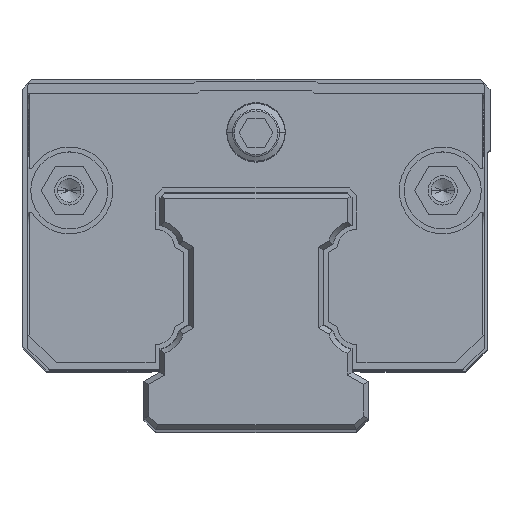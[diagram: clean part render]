
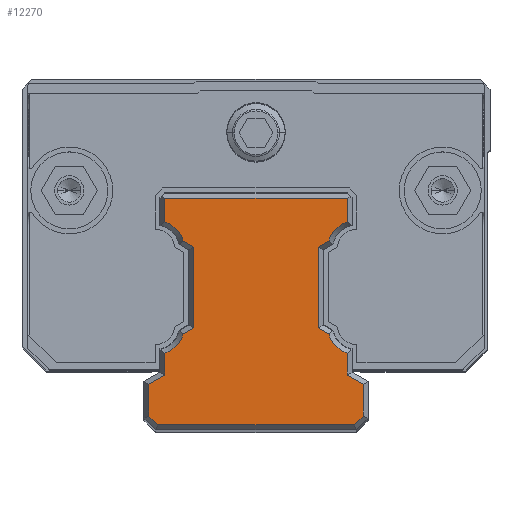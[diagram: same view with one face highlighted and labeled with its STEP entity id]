
A CAD part, top view. The second image highlights one B-rep face of the part: STEP entity #12270.
In plain terms, the highlighted planar face has unit normal (0, 0, 1).
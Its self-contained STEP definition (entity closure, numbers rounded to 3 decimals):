
#11584=DIRECTION('',(-1.,0.,0.));
#11585=VECTOR('',#11584,18.7);
#11586=CARTESIAN_POINT('',(9.35,9.15,78.95));
#11587=LINE('',#11586,#11585);
#11588=DIRECTION('',(0.,1.,0.));
#11589=VECTOR('',#11588,2.407);
#11590=CARTESIAN_POINT('',(9.35,6.743,78.95));
#11591=LINE('',#11590,#11589);
#11592=DIRECTION('',(0.866,0.5,0.));
#11593=VECTOR('',#11592,1.225);
#11594=CARTESIAN_POINT('',(6.4,4.139,78.95));
#11595=LINE('',#11594,#11593);
#11596=DIRECTION('',(0.,1.,0.));
#11597=VECTOR('',#11596,8.277);
#11598=CARTESIAN_POINT('',(6.4,-4.139,78.95));
#11599=LINE('',#11598,#11597);
#11600=DIRECTION('',(-0.866,0.5,0.));
#11601=VECTOR('',#11600,1.225);
#11602=CARTESIAN_POINT('',(7.461,-4.751,
78.95));
#11603=LINE('',#11602,#11601);
#11604=DIRECTION('',(0.,1.,0.));
#11605=VECTOR('',#11604,2.246);
#11606=CARTESIAN_POINT('',(9.35,-8.989,78.95));
#11607=LINE('',#11606,#11605);
#11608=DIRECTION('',(-0.866,0.5,0.));
#11609=VECTOR('',#11608,1.905);
#11610=CARTESIAN_POINT('',(11.,-9.941,78.95));
#11611=LINE('',#11610,#11609);
#11612=DIRECTION('',(0.,1.,0.));
#11613=VECTOR('',#11612,3.252);
#11614=CARTESIAN_POINT('',(11.,-13.193,78.95));
#11615=LINE('',#11614,#11613);
#11616=DIRECTION('',(0.707,0.707,0.));
#11617=VECTOR('',#11616,1.283);
#11618=CARTESIAN_POINT('',(10.093,-14.1,78.95));
#11619=LINE('',#11618,#11617);
#11620=DIRECTION('',(1.,0.,0.));
#11621=VECTOR('',#11620,20.186);
#11622=CARTESIAN_POINT('',(-10.093,-14.1,78.95));
#11623=LINE('',#11622,#11621);
#11624=DIRECTION('',(0.707,-0.707,0.));
#11625=VECTOR('',#11624,1.283);
#11626=CARTESIAN_POINT('',(-11.,-13.193,78.95));
#11627=LINE('',#11626,#11625);
#11628=DIRECTION('',(0.,-1.,0.));
#11629=VECTOR('',#11628,3.252);
#11630=CARTESIAN_POINT('',(-11.,-9.941,78.95));
#11631=LINE('',#11630,#11629);
#11632=DIRECTION('',(-0.866,-0.5,0.));
#11633=VECTOR('',#11632,1.905);
#11634=CARTESIAN_POINT('',(-9.35,-8.989,78.95));
#11635=LINE('',#11634,#11633);
#11636=DIRECTION('',(0.,-1.,0.));
#11637=VECTOR('',#11636,2.246);
#11638=CARTESIAN_POINT('',(-9.35,-6.743,
78.95));
#11639=LINE('',#11638,#11637);
#11640=DIRECTION('',(-0.866,-0.5,0.));
#11641=VECTOR('',#11640,1.225);
#11642=CARTESIAN_POINT('',(-6.4,-4.139,78.95));
#11643=LINE('',#11642,#11641);
#11644=DIRECTION('',(0.,-1.,0.));
#11645=VECTOR('',#11644,8.277);
#11646=CARTESIAN_POINT('',(-6.4,4.139,78.95));
#11647=LINE('',#11646,#11645);
#11648=DIRECTION('',(0.866,-0.5,0.));
#11649=VECTOR('',#11648,1.225);
#11650=CARTESIAN_POINT('',(-7.461,4.751,
78.95));
#11651=LINE('',#11650,#11649);
#11652=DIRECTION('',(0.,-1.,0.));
#11653=VECTOR('',#11652,2.407);
#11654=CARTESIAN_POINT('',(-9.35,9.15,78.95));
#11655=LINE('',#11654,#11653);
#11683=CARTESIAN_POINT('',(-10.3,3.95,78.95));
#11684=DIRECTION('',(0.,0.,-1.));
#11685=DIRECTION('',(0.322,0.947,0.));
#11686=AXIS2_PLACEMENT_3D('',#11683,#11684,#11685);
#11743=CARTESIAN_POINT('',(-10.3,-3.95,78.95));
#11744=DIRECTION('',(0.,0.,-1.));
#11745=DIRECTION('',(0.962,-0.272,0.));
#11746=AXIS2_PLACEMENT_3D('',#11743,#11744,#11745);
#11875=CARTESIAN_POINT('',(10.3,-3.95,78.95));
#11876=DIRECTION('',(0.,0.,-1.));
#11877=DIRECTION('',(-0.322,-0.947,0.));
#11878=AXIS2_PLACEMENT_3D('',#11875,#11876,#11877);
#11940=CARTESIAN_POINT('',(10.3,3.95,78.95));
#11941=DIRECTION('',(0.,0.,-1.));
#11942=DIRECTION('',(-0.962,0.272,0.));
#11943=AXIS2_PLACEMENT_3D('',#11940,#11941,#11942);
#12032=CARTESIAN_POINT('',(9.35,9.15,78.95));
#12033=CARTESIAN_POINT('',(-9.35,9.15,78.95));
#12034=VERTEX_POINT('',#12032);
#12035=VERTEX_POINT('',#12033);
#12040=CARTESIAN_POINT('',(9.35,6.743,78.95));
#12041=VERTEX_POINT('',#12040);
#12046=CARTESIAN_POINT('',(6.4,4.139,78.95));
#12047=CARTESIAN_POINT('',(7.461,4.751,78.95));
#12048=VERTEX_POINT('',#12046);
#12049=VERTEX_POINT('',#12047);
#12052=CARTESIAN_POINT('',(6.4,-4.139,78.95));
#12053=VERTEX_POINT('',#12052);
#12054=CARTESIAN_POINT('',(7.461,-4.751,
78.95));
#12055=VERTEX_POINT('',#12054);
#12062=CARTESIAN_POINT('',(9.35,-8.989,78.95));
#12063=CARTESIAN_POINT('',(9.35,-6.743,
78.95));
#12064=VERTEX_POINT('',#12062);
#12065=VERTEX_POINT('',#12063);
#12068=CARTESIAN_POINT('',(11.,-9.941,78.95));
#12069=VERTEX_POINT('',#12068);
#12072=CARTESIAN_POINT('',(11.,-13.193,78.95));
#12073=VERTEX_POINT('',#12072);
#12076=CARTESIAN_POINT('',(10.093,-14.1,78.95));
#12077=VERTEX_POINT('',#12076);
#12080=CARTESIAN_POINT('',(-10.093,-14.1,78.95));
#12081=VERTEX_POINT('',#12080);
#12084=CARTESIAN_POINT('',(-11.,-13.193,78.95));
#12085=VERTEX_POINT('',#12084);
#12088=CARTESIAN_POINT('',(-11.,-9.941,78.95));
#12089=VERTEX_POINT('',#12088);
#12092=CARTESIAN_POINT('',(-9.35,-8.989,78.95));
#12093=VERTEX_POINT('',#12092);
#12096=CARTESIAN_POINT('',(-9.35,-6.743,
78.95));
#12097=VERTEX_POINT('',#12096);
#12102=CARTESIAN_POINT('',(-6.4,-4.139,78.95));
#12103=CARTESIAN_POINT('',(-7.461,-4.751,
78.95));
#12104=VERTEX_POINT('',#12102);
#12105=VERTEX_POINT('',#12103);
#12108=CARTESIAN_POINT('',(-6.4,4.139,78.95));
#12109=VERTEX_POINT('',#12108);
#12112=CARTESIAN_POINT('',(-7.461,4.751,
78.95));
#12113=VERTEX_POINT('',#12112);
#12116=CARTESIAN_POINT('',(-9.35,6.743,
78.95));
#12117=VERTEX_POINT('',#12116);
#12221=CARTESIAN_POINT('',(0.,0.,78.95));
#12222=DIRECTION('',(0.,0.,1.));
#12223=DIRECTION('',(1.,0.,0.));
#12224=AXIS2_PLACEMENT_3D('',#12221,#12222,#12223);
#12225=PLANE('',#12224);
#12227=ORIENTED_EDGE('',*,*,#12226,.F.);
#12229=ORIENTED_EDGE('',*,*,#12228,.F.);
#12231=ORIENTED_EDGE('',*,*,#12230,.F.);
#12233=ORIENTED_EDGE('',*,*,#12232,.F.);
#12234=ORIENTED_EDGE('',*,*,#12199,.F.);
#12235=ORIENTED_EDGE('',*,*,#12211,.F.);
#12237=ORIENTED_EDGE('',*,*,#12236,.F.);
#12239=ORIENTED_EDGE('',*,*,#12238,.F.);
#12241=ORIENTED_EDGE('',*,*,#12240,.F.);
#12243=ORIENTED_EDGE('',*,*,#12242,.F.);
#12245=ORIENTED_EDGE('',*,*,#12244,.F.);
#12247=ORIENTED_EDGE('',*,*,#12246,.F.);
#12249=ORIENTED_EDGE('',*,*,#12248,.F.);
#12251=ORIENTED_EDGE('',*,*,#12250,.F.);
#12253=ORIENTED_EDGE('',*,*,#12252,.F.);
#12255=ORIENTED_EDGE('',*,*,#12254,.F.);
#12257=ORIENTED_EDGE('',*,*,#12256,.F.);
#12259=ORIENTED_EDGE('',*,*,#12258,.F.);
#12261=ORIENTED_EDGE('',*,*,#12260,.F.);
#12263=ORIENTED_EDGE('',*,*,#12262,.F.);
#12265=ORIENTED_EDGE('',*,*,#12264,.F.);
#12267=ORIENTED_EDGE('',*,*,#12266,.F.);
#12268=EDGE_LOOP('',(#12227,#12229,#12231,#12233,#12234,#12235,#12237,#12239,
#12241,#12243,#12245,#12247,#12249,#12251,#12253,#12255,#12257,#12259,#12261,
#12263,#12265,#12267));
#12269=FACE_OUTER_BOUND('',#12268,.F.);
#11687=CIRCLE('',#11686,2.95);
#11747=CIRCLE('',#11746,2.95);
#11879=CIRCLE('',#11878,2.95);
#11944=CIRCLE('',#11943,2.95);
#12199=EDGE_CURVE('',#12053,#12048,#11599,.T.);
#12211=EDGE_CURVE('',#12055,#12053,#11603,.T.);
#12226=EDGE_CURVE('',#12034,#12035,#11587,.T.);
#12228=EDGE_CURVE('',#12041,#12034,#11591,.T.);
#12230=EDGE_CURVE('',#12049,#12041,#11944,.T.);
#12232=EDGE_CURVE('',#12048,#12049,#11595,.T.);
#12236=EDGE_CURVE('',#12065,#12055,#11879,.T.);
#12238=EDGE_CURVE('',#12064,#12065,#11607,.T.);
#12240=EDGE_CURVE('',#12069,#12064,#11611,.T.);
#12242=EDGE_CURVE('',#12073,#12069,#11615,.T.);
#12244=EDGE_CURVE('',#12077,#12073,#11619,.T.);
#12246=EDGE_CURVE('',#12081,#12077,#11623,.T.);
#12248=EDGE_CURVE('',#12085,#12081,#11627,.T.);
#12250=EDGE_CURVE('',#12089,#12085,#11631,.T.);
#12252=EDGE_CURVE('',#12093,#12089,#11635,.T.);
#12254=EDGE_CURVE('',#12097,#12093,#11639,.T.);
#12256=EDGE_CURVE('',#12105,#12097,#11747,.T.);
#12258=EDGE_CURVE('',#12104,#12105,#11643,.T.);
#12260=EDGE_CURVE('',#12109,#12104,#11647,.T.);
#12262=EDGE_CURVE('',#12113,#12109,#11651,.T.);
#12264=EDGE_CURVE('',#12117,#12113,#11687,.T.);
#12266=EDGE_CURVE('',#12035,#12117,#11655,.T.);
#12270=ADVANCED_FACE('',(#12269),#12225,.T.);
